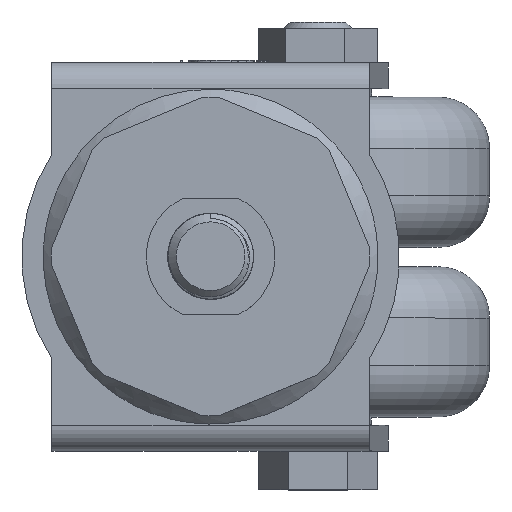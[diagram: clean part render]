
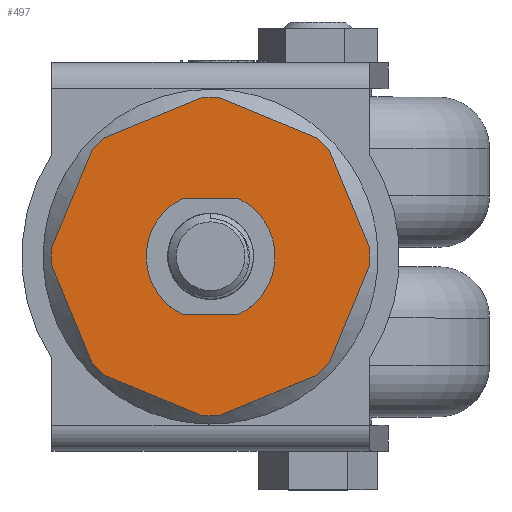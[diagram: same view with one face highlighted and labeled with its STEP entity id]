
A CAD part, top view. The second image highlights one B-rep face of the part: STEP entity #497.
In plain terms, the highlighted planar face has unit normal (0, 0, 1).
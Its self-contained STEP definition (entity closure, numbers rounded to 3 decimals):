
#497=ADVANCED_FACE('',(#1448,#1449),#845,.F.);
#845=PLANE('',#6291);
#1448=FACE_BOUND('',#1676,.T.);
#1449=FACE_BOUND('',#1677,.T.);
#1676=EDGE_LOOP('',(#2589,#2590,#2591,#2592));
#1677=EDGE_LOOP('',(#2593,#2594,#2595,#2596,#2597,#2598,#2599,#2600,#2601,
#2602,#2603,#2604,#2605,#2606,#2607,#2608));
#2148=CIRCLE('',#6286,15.);
#2149=CIRCLE('',#6289,15.);
#2589=ORIENTED_EDGE('',*,*,#4845,.F.);
#2590=ORIENTED_EDGE('',*,*,#4843,.F.);
#2591=ORIENTED_EDGE('',*,*,#4841,.F.);
#2592=ORIENTED_EDGE('',*,*,#4838,.F.);
#2593=ORIENTED_EDGE('',*,*,#4846,.T.);
#2594=ORIENTED_EDGE('',*,*,#4847,.T.);
#2595=ORIENTED_EDGE('',*,*,#4848,.T.);
#2596=ORIENTED_EDGE('',*,*,#4849,.T.);
#2597=ORIENTED_EDGE('',*,*,#4850,.T.);
#2598=ORIENTED_EDGE('',*,*,#4851,.T.);
#2599=ORIENTED_EDGE('',*,*,#4852,.T.);
#2600=ORIENTED_EDGE('',*,*,#4853,.T.);
#2601=ORIENTED_EDGE('',*,*,#4854,.T.);
#2602=ORIENTED_EDGE('',*,*,#4855,.T.);
#2603=ORIENTED_EDGE('',*,*,#4856,.T.);
#2604=ORIENTED_EDGE('',*,*,#4857,.T.);
#2605=ORIENTED_EDGE('',*,*,#4858,.T.);
#2606=ORIENTED_EDGE('',*,*,#4859,.T.);
#2607=ORIENTED_EDGE('',*,*,#4860,.T.);
#2608=ORIENTED_EDGE('',*,*,#4861,.T.);
#4216=VERTEX_POINT('',#11917);
#4217=VERTEX_POINT('',#11918);
#4218=VERTEX_POINT('',#11923);
#4219=VERTEX_POINT('',#11927);
#4220=VERTEX_POINT('',#11933);
#4221=VERTEX_POINT('',#11934);
#4222=VERTEX_POINT('',#11936);
#4223=VERTEX_POINT('',#11938);
#4224=VERTEX_POINT('',#11940);
#4225=VERTEX_POINT('',#11942);
#4226=VERTEX_POINT('',#11944);
#4227=VERTEX_POINT('',#11946);
#4228=VERTEX_POINT('',#11948);
#4229=VERTEX_POINT('',#11950);
#4230=VERTEX_POINT('',#11952);
#4231=VERTEX_POINT('',#11954);
#4232=VERTEX_POINT('',#11956);
#4233=VERTEX_POINT('',#11958);
#4234=VERTEX_POINT('',#11960);
#4235=VERTEX_POINT('',#11962);
#4838=EDGE_CURVE('',#4216,#4217,#5497,.T.);
#4841=EDGE_CURVE('',#4217,#4218,#2148,.T.);
#4843=EDGE_CURVE('',#4218,#4219,#5501,.T.);
#4845=EDGE_CURVE('',#4219,#4216,#2149,.T.);
#4846=EDGE_CURVE('',#4220,#4221,#5503,.T.);
#4847=EDGE_CURVE('',#4221,#4222,#5504,.T.);
#4848=EDGE_CURVE('',#4222,#4223,#5505,.T.);
#4849=EDGE_CURVE('',#4223,#4224,#5506,.T.);
#4850=EDGE_CURVE('',#4224,#4225,#5507,.T.);
#4851=EDGE_CURVE('',#4225,#4226,#5508,.T.);
#4852=EDGE_CURVE('',#4226,#4227,#5509,.T.);
#4853=EDGE_CURVE('',#4227,#4228,#5510,.T.);
#4854=EDGE_CURVE('',#4228,#4229,#5511,.T.);
#4855=EDGE_CURVE('',#4229,#4230,#5512,.T.);
#4856=EDGE_CURVE('',#4230,#4231,#5513,.T.);
#4857=EDGE_CURVE('',#4231,#4232,#5514,.T.);
#4858=EDGE_CURVE('',#4232,#4233,#5515,.T.);
#4859=EDGE_CURVE('',#4233,#4234,#5516,.T.);
#4860=EDGE_CURVE('',#4234,#4235,#5517,.T.);
#4861=EDGE_CURVE('',#4235,#4220,#5518,.T.);
#5497=LINE('',#11916,#5872);
#5501=LINE('',#11926,#5876);
#5503=LINE('',#11932,#5878);
#5504=LINE('',#11935,#5879);
#5505=LINE('',#11937,#5880);
#5506=LINE('',#11939,#5881);
#5507=LINE('',#11941,#5882);
#5508=LINE('',#11943,#5883);
#5509=LINE('',#11945,#5884);
#5510=LINE('',#11947,#5885);
#5511=LINE('',#11949,#5886);
#5512=LINE('',#11951,#5887);
#5513=LINE('',#11953,#5888);
#5514=LINE('',#11955,#5889);
#5515=LINE('',#11957,#5890);
#5516=LINE('',#11959,#5891);
#5517=LINE('',#11961,#5892);
#5518=LINE('',#11963,#5893);
#5872=VECTOR('',#6946,1.);
#5876=VECTOR('',#6956,1.);
#5878=VECTOR('',#6964,1.);
#5879=VECTOR('',#6965,1.);
#5880=VECTOR('',#6966,1.);
#5881=VECTOR('',#6967,1.);
#5882=VECTOR('',#6968,1.);
#5883=VECTOR('',#6969,1.);
#5884=VECTOR('',#6970,1.);
#5885=VECTOR('',#6971,1.);
#5886=VECTOR('',#6972,1.);
#5887=VECTOR('',#6973,1.);
#5888=VECTOR('',#6974,1.);
#5889=VECTOR('',#6975,1.);
#5890=VECTOR('',#6976,1.);
#5891=VECTOR('',#6977,1.);
#5892=VECTOR('',#6978,1.);
#5893=VECTOR('',#6979,1.);
#6286=AXIS2_PLACEMENT_3D('',#11922,#6951,#6952);
#6289=AXIS2_PLACEMENT_3D('',#11930,#6960,#6961);
#6291=AXIS2_PLACEMENT_3D('',#11964,#6980,#6981);
#6946=DIRECTION('',(1.,0.,0.));
#6951=DIRECTION('',(0.,0.,1.));
#6952=DIRECTION('',(1.,0.,0.));
#6956=DIRECTION('',(-1.,0.,0.));
#6960=DIRECTION('',(0.,0.,1.));
#6961=DIRECTION('',(1.,0.,0.));
#6964=DIRECTION('',(-0.924,0.383,0.));
#6965=DIRECTION('',(-1.,0.,0.));
#6966=DIRECTION('',(-0.924,-0.383,0.));
#6967=DIRECTION('',(-0.707,-0.707,0.));
#6968=DIRECTION('',(-0.383,-0.924,0.));
#6969=DIRECTION('',(0.,-1.,0.));
#6970=DIRECTION('',(0.383,-0.924,0.));
#6971=DIRECTION('',(0.707,-0.707,0.));
#6972=DIRECTION('',(0.924,-0.383,0.));
#6973=DIRECTION('',(1.,0.,0.));
#6974=DIRECTION('',(0.924,0.383,0.));
#6975=DIRECTION('',(0.707,0.707,0.));
#6976=DIRECTION('',(0.383,0.924,0.));
#6977=DIRECTION('',(0.,1.,0.));
#6978=DIRECTION('',(-0.383,0.924,0.));
#6979=DIRECTION('',(-0.707,0.707,0.));
#6980=DIRECTION('',(0.,0.,-1.));
#6981=DIRECTION('',(0.,1.,0.));
#11916=CARTESIAN_POINT('',(-6.538,-13.5,-40.));
#11917=CARTESIAN_POINT('',(-6.538,-13.5,-40.));
#11918=CARTESIAN_POINT('',(6.538,-13.5,-40.));
#11922=CARTESIAN_POINT('',(0.,0.,-40.));
#11923=CARTESIAN_POINT('',(6.538,13.5,-40.));
#11926=CARTESIAN_POINT('',(6.538,13.5,-40.));
#11927=CARTESIAN_POINT('',(-6.538,13.5,-40.));
#11930=CARTESIAN_POINT('',(0.,0.,-40.));
#11932=CARTESIAN_POINT('',(13.394,32.336,-40.));
#11933=CARTESIAN_POINT('',(24.94,27.553,-40.));
#11934=CARTESIAN_POINT('',(1.848,37.118,-40.));
#11935=CARTESIAN_POINT('',(-1.848,37.118,-40.));
#11936=CARTESIAN_POINT('',(-1.848,37.118,-40.));
#11937=CARTESIAN_POINT('',(-13.394,32.336,-40.));
#11938=CARTESIAN_POINT('',(-24.94,27.553,-40.));
#11939=CARTESIAN_POINT('',(-27.553,24.94,-40.));
#11940=CARTESIAN_POINT('',(-27.553,24.94,-40.));
#11941=CARTESIAN_POINT('',(-32.336,13.394,-40.));
#11942=CARTESIAN_POINT('',(-37.118,1.848,-40.));
#11943=CARTESIAN_POINT('',(-37.118,-1.848,-40.));
#11944=CARTESIAN_POINT('',(-37.118,-1.848,-40.));
#11945=CARTESIAN_POINT('',(-32.336,-13.394,-40.));
#11946=CARTESIAN_POINT('',(-27.553,-24.94,-40.));
#11947=CARTESIAN_POINT('',(-24.94,-27.553,-40.));
#11948=CARTESIAN_POINT('',(-24.94,-27.553,-40.));
#11949=CARTESIAN_POINT('',(-13.394,-32.336,-40.));
#11950=CARTESIAN_POINT('',(-1.848,-37.118,-40.));
#11951=CARTESIAN_POINT('',(1.848,-37.118,-40.));
#11952=CARTESIAN_POINT('',(1.848,-37.118,-40.));
#11953=CARTESIAN_POINT('',(13.394,-32.336,-40.));
#11954=CARTESIAN_POINT('',(24.94,-27.553,-40.));
#11955=CARTESIAN_POINT('',(27.553,-24.94,-40.));
#11956=CARTESIAN_POINT('',(27.553,-24.94,-40.));
#11957=CARTESIAN_POINT('',(32.336,-13.394,-40.));
#11958=CARTESIAN_POINT('',(37.118,-1.848,-40.));
#11959=CARTESIAN_POINT('',(37.118,1.848,-40.));
#11960=CARTESIAN_POINT('',(37.118,1.848,-40.));
#11961=CARTESIAN_POINT('',(32.336,13.394,-40.));
#11962=CARTESIAN_POINT('',(27.553,24.94,-40.));
#11963=CARTESIAN_POINT('',(24.94,27.553,-40.));
#11964=CARTESIAN_POINT('',(0.,0.,-40.));
